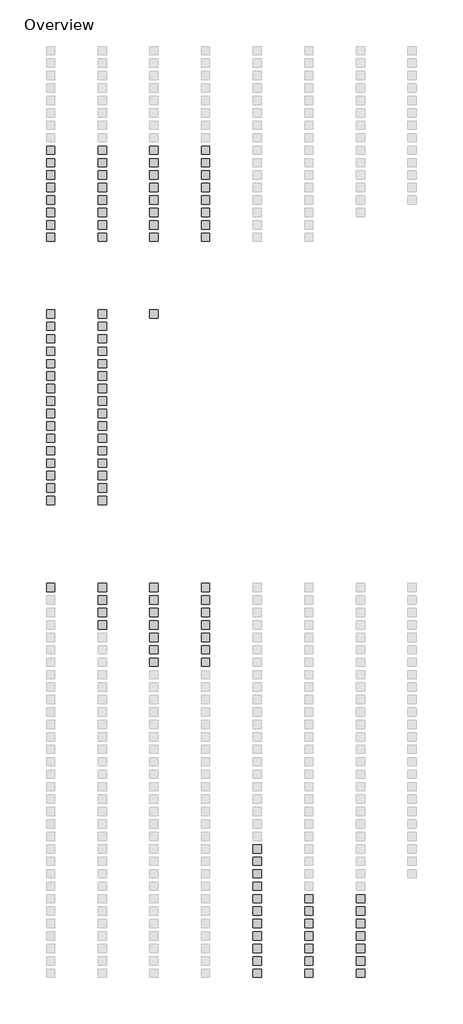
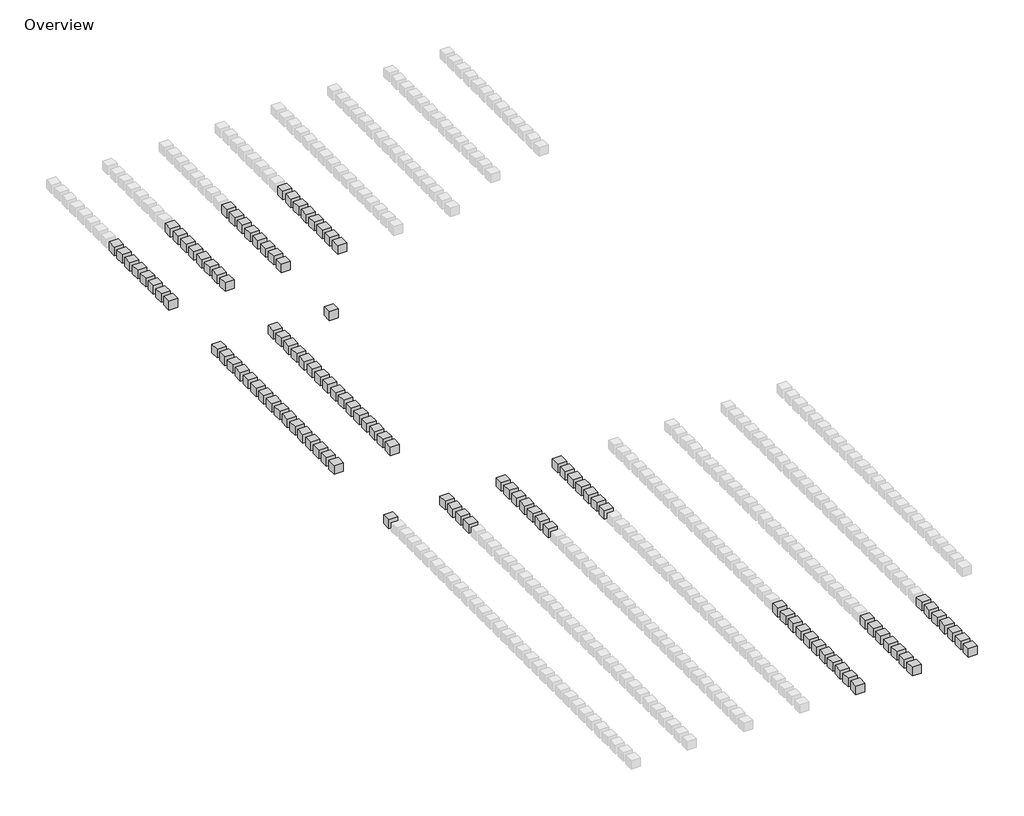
# One storey, part 2 of 5: 109 proxies.
"""IFC4 building model written with IfcOpenShell, lengths in millimetres."""

from ifc_helpers import new_model, si_unit, origin, place, context, project, spatial, transform, mapped, element, save
from components import material_box_material_box_61bd0c43

model = new_model("IFC4")

# Units and contexts
model_context = context("Model", 3, world=origin())
ifc_project = project(units=[si_unit("LENGTHUNIT", "METRE", prefix="MILLI")], contexts=[model_context])

# Site, building, storey
site = spatial("IfcSite", under=ifc_project)
building = spatial("IfcBuilding", under=site)
storey = spatial("IfcBuildingStorey", under=building, Name="Overview", Elevation=0.0)

# Proxies
placement = place(None, origin())
material_box_material_box_shape = material_box_material_box_61bd0c43(model_context)
element("IfcBuildingElementProxy", 1, Name="Material Box : Material Box", ObjectType="Material Box : Material Box", at=placement, inside=storey, context=model_context, shape_type="MappedRepresentation", body=[
    mapped(material_box_material_box_shape, transform((-14601.1030029, -15054.0736223, 0.0), x_axis=(1.0, 0.0, 0.0), y_axis=(0.0, 1.0, 0.0), z_axis=(0.0, 0.0, 1.0))),
])
element("IfcBuildingElementProxy", 2, Name="Material Box : Material Box", ObjectType="Material Box : Material Box", at=placement, inside=storey, context=model_context, shape_type="MappedRepresentation", body=[
    mapped(material_box_material_box_shape, transform((-14601.1030029, -16197.0736223, 0.0), x_axis=(1.0, 0.0, 0.0), y_axis=(0.0, 1.0, 0.0), z_axis=(0.0, 0.0, 1.0))),
])
element("IfcBuildingElementProxy", 3, Name="Material Box : Material Box", ObjectType="Material Box : Material Box", at=placement, inside=storey, context=model_context, shape_type="MappedRepresentation", body=[
    mapped(material_box_material_box_shape, transform((-14601.1030029, -17340.0736223, 0.0), x_axis=(1.0, 0.0, 0.0), y_axis=(0.0, 1.0, 0.0), z_axis=(0.0, 0.0, 1.0))),
])
element("IfcBuildingElementProxy", 4, Name="Material Box : Material Box", ObjectType="Material Box : Material Box", at=placement, inside=storey, context=model_context, shape_type="MappedRepresentation", body=[
    mapped(material_box_material_box_shape, transform((-14601.1030029, -18483.0736223, 0.0), x_axis=(1.0, 0.0, 0.0), y_axis=(0.0, 1.0, 0.0), z_axis=(0.0, 0.0, 1.0))),
])
element("IfcBuildingElementProxy", 5, Name="Material Box : Material Box", ObjectType="Material Box : Material Box", at=placement, inside=storey, context=model_context, shape_type="MappedRepresentation", body=[
    mapped(material_box_material_box_shape, transform((-9851.3030029, -15054.0736223, 0.0), x_axis=(1.0, 0.0, 0.0), y_axis=(0.0, 1.0, 0.0), z_axis=(0.0, 0.0, 1.0))),
])
element("IfcBuildingElementProxy", 6, Name="Material Box : Material Box", ObjectType="Material Box : Material Box", at=placement, inside=storey, context=model_context, shape_type="MappedRepresentation", body=[
    mapped(material_box_material_box_shape, transform((-9851.3030029, -16197.0736223, 0.0), x_axis=(1.0, 0.0, 0.0), y_axis=(0.0, 1.0, 0.0), z_axis=(0.0, 0.0, 1.0))),
])
element("IfcBuildingElementProxy", 7, Name="Material Box : Material Box", ObjectType="Material Box : Material Box", at=placement, inside=storey, context=model_context, shape_type="MappedRepresentation", body=[
    mapped(material_box_material_box_shape, transform((-9851.3030029, -17340.0736223, 0.0), x_axis=(1.0, 0.0, 0.0), y_axis=(0.0, 1.0, 0.0), z_axis=(0.0, 0.0, 1.0))),
])
element("IfcBuildingElementProxy", 8, Name="Material Box : Material Box", ObjectType="Material Box : Material Box", at=placement, inside=storey, context=model_context, shape_type="MappedRepresentation", body=[
    mapped(material_box_material_box_shape, transform((-9851.3030029, -18483.0736223, 0.0), x_axis=(1.0, 0.0, 0.0), y_axis=(0.0, 1.0, 0.0), z_axis=(0.0, 0.0, 1.0))),
])
element("IfcBuildingElementProxy", 9, Name="Material Box : Material Box", ObjectType="Material Box : Material Box", at=placement, inside=storey, context=model_context, shape_type="MappedRepresentation", body=[
    mapped(material_box_material_box_shape, transform((-14601.1030029, -19626.0736223, 0.0), x_axis=(1.0, 0.0, 0.0), y_axis=(0.0, 1.0, 0.0), z_axis=(0.0, 0.0, 1.0))),
])
element("IfcBuildingElementProxy", 10, Name="Material Box : Material Box", ObjectType="Material Box : Material Box", at=placement, inside=storey, context=model_context, shape_type="MappedRepresentation", body=[
    mapped(material_box_material_box_shape, transform((-9851.3030029, -19626.0736223, 0.0), x_axis=(1.0, 0.0, 0.0), y_axis=(0.0, 1.0, 0.0), z_axis=(0.0, 0.0, 1.0))),
])
element("IfcBuildingElementProxy", 11, Name="Material Box : Material Box", ObjectType="Material Box : Material Box", at=placement, inside=storey, context=model_context, shape_type="MappedRepresentation", body=[
    mapped(material_box_material_box_shape, transform((-14601.1030029, -20769.0736223, 0.0), x_axis=(1.0, 0.0, 0.0), y_axis=(0.0, 1.0, 0.0), z_axis=(0.0, 0.0, 1.0))),
])
element("IfcBuildingElementProxy", 12, Name="Material Box : Material Box", ObjectType="Material Box : Material Box", at=placement, inside=storey, context=model_context, shape_type="MappedRepresentation", body=[
    mapped(material_box_material_box_shape, transform((-9851.3030029, -20769.0736223, 0.0), x_axis=(1.0, 0.0, 0.0), y_axis=(0.0, 1.0, 0.0), z_axis=(0.0, 0.0, 1.0))),
])
element("IfcBuildingElementProxy", 13, Name="Material Box : Material Box", ObjectType="Material Box : Material Box", at=placement, inside=storey, context=model_context, shape_type="MappedRepresentation", body=[
    mapped(material_box_material_box_shape, transform((-14601.1030029, -21912.0736223, 0.0), x_axis=(1.0, 0.0, 0.0), y_axis=(0.0, 1.0, 0.0), z_axis=(0.0, 0.0, 1.0))),
])
element("IfcBuildingElementProxy", 14, Name="Material Box : Material Box", ObjectType="Material Box : Material Box", at=placement, inside=storey, context=model_context, shape_type="MappedRepresentation", body=[
    mapped(material_box_material_box_shape, transform((-9851.3030029, -21912.0736223, 0.0), x_axis=(1.0, 0.0, 0.0), y_axis=(0.0, 1.0, 0.0), z_axis=(0.0, 0.0, 1.0))),
])
element("IfcBuildingElementProxy", 15, Name="Material Box : Material Box", ObjectType="Material Box : Material Box", at=placement, inside=storey, context=model_context, shape_type="MappedRepresentation", body=[
    mapped(material_box_material_box_shape, transform((-14601.1030029, -23055.0736223, 0.0), x_axis=(1.0, 0.0, 0.0), y_axis=(0.0, 1.0, 0.0), z_axis=(0.0, 0.0, 1.0))),
])
element("IfcBuildingElementProxy", 16, Name="Material Box : Material Box", ObjectType="Material Box : Material Box", at=placement, inside=storey, context=model_context, shape_type="MappedRepresentation", body=[
    mapped(material_box_material_box_shape, transform((-9851.3030029, -23055.0736223, 0.0), x_axis=(1.0, 0.0, 0.0), y_axis=(0.0, 1.0, 0.0), z_axis=(0.0, 0.0, 1.0))),
])
element("IfcBuildingElementProxy", 17, Name="Material Box : Material Box", ObjectType="Material Box : Material Box", at=placement, inside=storey, context=model_context, shape_type="MappedRepresentation", body=[
    mapped(material_box_material_box_shape, transform((-14601.1030029, -24198.0736223, 0.0), x_axis=(1.0, 0.0, 0.0), y_axis=(0.0, 1.0, 0.0), z_axis=(0.0, 0.0, 1.0))),
])
element("IfcBuildingElementProxy", 18, Name="Material Box : Material Box", ObjectType="Material Box : Material Box", at=placement, inside=storey, context=model_context, shape_type="MappedRepresentation", body=[
    mapped(material_box_material_box_shape, transform((-9851.3030029, -24198.0736223, 0.0), x_axis=(1.0, 0.0, 0.0), y_axis=(0.0, 1.0, 0.0), z_axis=(0.0, 0.0, 1.0))),
])
element("IfcBuildingElementProxy", 19, Name="Material Box : Material Box", ObjectType="Material Box : Material Box", at=placement, inside=storey, context=model_context, shape_type="MappedRepresentation", body=[
    mapped(material_box_material_box_shape, transform((-14601.1030029, -25341.0736223, 0.0), x_axis=(1.0, 0.0, 0.0), y_axis=(0.0, 1.0, 0.0), z_axis=(0.0, 0.0, 1.0))),
])
element("IfcBuildingElementProxy", 20, Name="Material Box : Material Box", ObjectType="Material Box : Material Box", at=placement, inside=storey, context=model_context, shape_type="MappedRepresentation", body=[
    mapped(material_box_material_box_shape, transform((-9851.3030029, -25341.0736223, 0.0), x_axis=(1.0, 0.0, 0.0), y_axis=(0.0, 1.0, 0.0), z_axis=(0.0, 0.0, 1.0))),
])
element("IfcBuildingElementProxy", 21, Name="Material Box : Material Box", ObjectType="Material Box : Material Box", at=placement, inside=storey, context=model_context, shape_type="MappedRepresentation", body=[
    mapped(material_box_material_box_shape, transform((-14601.1030029, -26484.0736223, 0.0), x_axis=(1.0, 0.0, 0.0), y_axis=(0.0, 1.0, 0.0), z_axis=(0.0, 0.0, 1.0))),
])
element("IfcBuildingElementProxy", 22, Name="Material Box : Material Box", ObjectType="Material Box : Material Box", at=placement, inside=storey, context=model_context, shape_type="MappedRepresentation", body=[
    mapped(material_box_material_box_shape, transform((-9851.3030029, -26484.0736223, 0.0), x_axis=(1.0, 0.0, 0.0), y_axis=(0.0, 1.0, 0.0), z_axis=(0.0, 0.0, 1.0))),
])
element("IfcBuildingElementProxy", 23, Name="Material Box : Material Box", ObjectType="Material Box : Material Box", at=placement, inside=storey, context=model_context, shape_type="MappedRepresentation", body=[
    mapped(material_box_material_box_shape, transform((-14601.1030029, -27627.0736223, 0.0), x_axis=(1.0, 0.0, 0.0), y_axis=(0.0, 1.0, 0.0), z_axis=(0.0, 0.0, 1.0))),
])
element("IfcBuildingElementProxy", 24, Name="Material Box : Material Box", ObjectType="Material Box : Material Box", at=placement, inside=storey, context=model_context, shape_type="MappedRepresentation", body=[
    mapped(material_box_material_box_shape, transform((-9851.3030029, -27627.0736223, 0.0), x_axis=(1.0, 0.0, 0.0), y_axis=(0.0, 1.0, 0.0), z_axis=(0.0, 0.0, 1.0))),
])
element("IfcBuildingElementProxy", 25, Name="Material Box : Material Box", ObjectType="Material Box : Material Box", at=placement, inside=storey, context=model_context, shape_type="MappedRepresentation", body=[
    mapped(material_box_material_box_shape, transform((-14601.1030029, -28770.0736223, 0.0), x_axis=(1.0, 0.0, 0.0), y_axis=(0.0, 1.0, 0.0), z_axis=(0.0, 0.0, 1.0))),
])
element("IfcBuildingElementProxy", 26, Name="Material Box : Material Box", ObjectType="Material Box : Material Box", at=placement, inside=storey, context=model_context, shape_type="MappedRepresentation", body=[
    mapped(material_box_material_box_shape, transform((-9851.3030029, -28770.0736223, 0.0), x_axis=(1.0, 0.0, 0.0), y_axis=(0.0, 1.0, 0.0), z_axis=(0.0, 0.0, 1.0))),
])
element("IfcBuildingElementProxy", 27, Name="Material Box : Material Box", ObjectType="Material Box : Material Box", at=placement, inside=storey, context=model_context, shape_type="MappedRepresentation", body=[
    mapped(material_box_material_box_shape, transform((-14601.1030029, -29913.0736223, 0.0), x_axis=(1.0, 0.0, 0.0), y_axis=(0.0, 1.0, 0.0), z_axis=(0.0, 0.0, 1.0))),
])
element("IfcBuildingElementProxy", 28, Name="Material Box : Material Box", ObjectType="Material Box : Material Box", at=placement, inside=storey, context=model_context, shape_type="MappedRepresentation", body=[
    mapped(material_box_material_box_shape, transform((-9851.3030029, -29913.0736223, 0.0), x_axis=(1.0, 0.0, 0.0), y_axis=(0.0, 1.0, 0.0), z_axis=(0.0, 0.0, 1.0))),
])
element("IfcBuildingElementProxy", 29, Name="Material Box : Material Box", ObjectType="Material Box : Material Box", at=placement, inside=storey, context=model_context, shape_type="MappedRepresentation", body=[
    mapped(material_box_material_box_shape, transform((-14601.1030029, -31056.0736223, 0.0), x_axis=(1.0, 0.0, 0.0), y_axis=(0.0, 1.0, 0.0), z_axis=(0.0, 0.0, 1.0))),
])
element("IfcBuildingElementProxy", 30, Name="Material Box : Material Box", ObjectType="Material Box : Material Box", at=placement, inside=storey, context=model_context, shape_type="MappedRepresentation", body=[
    mapped(material_box_material_box_shape, transform((-9851.3030029, -31056.0736223, 0.0), x_axis=(1.0, 0.0, 0.0), y_axis=(0.0, 1.0, 0.0), z_axis=(0.0, 0.0, 1.0))),
])
element("IfcBuildingElementProxy", 31, Name="Material Box : Material Box", ObjectType="Material Box : Material Box", at=placement, inside=storey, context=model_context, shape_type="MappedRepresentation", body=[
    mapped(material_box_material_box_shape, transform((-14601.1030029, -32199.0736223, 0.0), x_axis=(1.0, 0.0, 0.0), y_axis=(0.0, 1.0, 0.0), z_axis=(0.0, 0.0, 1.0))),
])
element("IfcBuildingElementProxy", 32, Name="Material Box : Material Box", ObjectType="Material Box : Material Box", at=placement, inside=storey, context=model_context, shape_type="MappedRepresentation", body=[
    mapped(material_box_material_box_shape, transform((-9851.3030029, -32199.0736223, 0.0), x_axis=(1.0, 0.0, 0.0), y_axis=(0.0, 1.0, 0.0), z_axis=(0.0, 0.0, 1.0))),
])
element("IfcBuildingElementProxy", 33, Name="Material Box : Material Box", ObjectType="Material Box : Material Box", at=placement, inside=storey, context=model_context, shape_type="MappedRepresentation", body=[
    mapped(material_box_material_box_shape, transform((-5101.5030029, -15054.0736223, 0.0), x_axis=(1.0, 0.0, 0.0), y_axis=(0.0, 1.0, 0.0), z_axis=(0.0, 0.0, 1.0))),
])
element("IfcBuildingElementProxy", 34, Name="Material Box : Material Box", ObjectType="Material Box : Material Box", at=placement, inside=storey, context=model_context, shape_type="MappedRepresentation", body=[
    mapped(material_box_material_box_shape, transform((-14601.1030029, -40200.0736223, 0.0), x_axis=(1.0, 0.0, 0.0), y_axis=(0.0, 1.0, 0.0), z_axis=(0.0, 0.0, 1.0))),
])
element("IfcBuildingElementProxy", 35, Name="Material Box : Material Box", ObjectType="Material Box : Material Box", at=placement, inside=storey, context=model_context, shape_type="MappedRepresentation", body=[
    mapped(material_box_material_box_shape, transform((-9851.3030029, -40200.0736223, 0.0), x_axis=(1.0, 0.0, 0.0), y_axis=(0.0, 1.0, 0.0), z_axis=(0.0, 0.0, 1.0))),
])
element("IfcBuildingElementProxy", 36, Name="Material Box : Material Box", ObjectType="Material Box : Material Box", at=placement, inside=storey, context=model_context, shape_type="MappedRepresentation", body=[
    mapped(material_box_material_box_shape, transform((-9851.3030029, -41343.0736223, 0.0), x_axis=(1.0, 0.0, 0.0), y_axis=(0.0, 1.0, 0.0), z_axis=(0.0, 0.0, 1.0))),
])
element("IfcBuildingElementProxy", 37, Name="Material Box : Material Box", ObjectType="Material Box : Material Box", at=placement, inside=storey, context=model_context, shape_type="MappedRepresentation", body=[
    mapped(material_box_material_box_shape, transform((-9851.3030029, -42486.0736223, 0.0), x_axis=(1.0, 0.0, 0.0), y_axis=(0.0, 1.0, 0.0), z_axis=(0.0, 0.0, 1.0))),
])
element("IfcBuildingElementProxy", 38, Name="Material Box : Material Box", ObjectType="Material Box : Material Box", at=placement, inside=storey, context=model_context, shape_type="MappedRepresentation", body=[
    mapped(material_box_material_box_shape, transform((-9851.3030029, -43629.0736223, 0.0), x_axis=(1.0, 0.0, 0.0), y_axis=(0.0, 1.0, 0.0), z_axis=(0.0, 0.0, 1.0))),
])
element("IfcBuildingElementProxy", 39, Name="Material Box : Material Box", ObjectType="Material Box : Material Box", at=placement, inside=storey, context=model_context, shape_type="MappedRepresentation", body=[
    mapped(material_box_material_box_shape, transform((-5101.5030029, -40200.0736223, 0.0), x_axis=(1.0, 0.0, 0.0), y_axis=(0.0, 1.0, 0.0), z_axis=(0.0, 0.0, 1.0))),
])
element("IfcBuildingElementProxy", 40, Name="Material Box : Material Box", ObjectType="Material Box : Material Box", at=placement, inside=storey, context=model_context, shape_type="MappedRepresentation", body=[
    mapped(material_box_material_box_shape, transform((-351.7030029, -40200.0736223, 0.0), x_axis=(1.0, 0.0, 0.0), y_axis=(0.0, 1.0, 0.0), z_axis=(0.0, 0.0, 1.0))),
])
element("IfcBuildingElementProxy", 41, Name="Material Box : Material Box", ObjectType="Material Box : Material Box", at=placement, inside=storey, context=model_context, shape_type="MappedRepresentation", body=[
    mapped(material_box_material_box_shape, transform((-5101.5030029, -41343.0736223, 0.0), x_axis=(1.0, 0.0, 0.0), y_axis=(0.0, 1.0, 0.0), z_axis=(0.0, 0.0, 1.0))),
])
element("IfcBuildingElementProxy", 42, Name="Material Box : Material Box", ObjectType="Material Box : Material Box", at=placement, inside=storey, context=model_context, shape_type="MappedRepresentation", body=[
    mapped(material_box_material_box_shape, transform((-351.7030029, -41343.0736223, 0.0), x_axis=(1.0, 0.0, 0.0), y_axis=(0.0, 1.0, 0.0), z_axis=(0.0, 0.0, 1.0))),
])
element("IfcBuildingElementProxy", 43, Name="Material Box : Material Box", ObjectType="Material Box : Material Box", at=placement, inside=storey, context=model_context, shape_type="MappedRepresentation", body=[
    mapped(material_box_material_box_shape, transform((-5101.5030029, -42486.0736223, 0.0), x_axis=(1.0, 0.0, 0.0), y_axis=(0.0, 1.0, 0.0), z_axis=(0.0, 0.0, 1.0))),
])
element("IfcBuildingElementProxy", 44, Name="Material Box : Material Box", ObjectType="Material Box : Material Box", at=placement, inside=storey, context=model_context, shape_type="MappedRepresentation", body=[
    mapped(material_box_material_box_shape, transform((-351.7030029, -42486.0736223, 0.0), x_axis=(1.0, 0.0, 0.0), y_axis=(0.0, 1.0, 0.0), z_axis=(0.0, 0.0, 1.0))),
])
element("IfcBuildingElementProxy", 45, Name="Material Box : Material Box", ObjectType="Material Box : Material Box", at=placement, inside=storey, context=model_context, shape_type="MappedRepresentation", body=[
    mapped(material_box_material_box_shape, transform((-5101.5030029, -43629.0736223, 0.0), x_axis=(1.0, 0.0, 0.0), y_axis=(0.0, 1.0, 0.0), z_axis=(0.0, 0.0, 1.0))),
])
element("IfcBuildingElementProxy", 46, Name="Material Box : Material Box", ObjectType="Material Box : Material Box", at=placement, inside=storey, context=model_context, shape_type="MappedRepresentation", body=[
    mapped(material_box_material_box_shape, transform((-351.7030029, -43629.0736223, 0.0), x_axis=(1.0, 0.0, 0.0), y_axis=(0.0, 1.0, 0.0), z_axis=(0.0, 0.0, 1.0))),
])
element("IfcBuildingElementProxy", 47, Name="Material Box : Material Box", ObjectType="Material Box : Material Box", at=placement, inside=storey, context=model_context, shape_type="MappedRepresentation", body=[
    mapped(material_box_material_box_shape, transform((-5101.5030029, -44772.0736223, 0.0), x_axis=(1.0, 0.0, 0.0), y_axis=(0.0, 1.0, 0.0), z_axis=(0.0, 0.0, 1.0))),
])
element("IfcBuildingElementProxy", 48, Name="Material Box : Material Box", ObjectType="Material Box : Material Box", at=placement, inside=storey, context=model_context, shape_type="MappedRepresentation", body=[
    mapped(material_box_material_box_shape, transform((-351.7030029, -44772.0736223, 0.0), x_axis=(1.0, 0.0, 0.0), y_axis=(0.0, 1.0, 0.0), z_axis=(0.0, 0.0, 1.0))),
])
element("IfcBuildingElementProxy", 49, Name="Material Box : Material Box", ObjectType="Material Box : Material Box", at=placement, inside=storey, context=model_context, shape_type="MappedRepresentation", body=[
    mapped(material_box_material_box_shape, transform((-5101.5030029, -45915.0736223, 0.0), x_axis=(1.0, 0.0, 0.0), y_axis=(0.0, 1.0, 0.0), z_axis=(0.0, 0.0, 1.0))),
])
element("IfcBuildingElementProxy", 50, Name="Material Box : Material Box", ObjectType="Material Box : Material Box", at=placement, inside=storey, context=model_context, shape_type="MappedRepresentation", body=[
    mapped(material_box_material_box_shape, transform((-351.7030029, -45915.0736223, 0.0), x_axis=(1.0, 0.0, 0.0), y_axis=(0.0, 1.0, 0.0), z_axis=(0.0, 0.0, 1.0))),
])
element("IfcBuildingElementProxy", 51, Name="Material Box : Material Box", ObjectType="Material Box : Material Box", at=placement, inside=storey, context=model_context, shape_type="MappedRepresentation", body=[
    mapped(material_box_material_box_shape, transform((-5101.5030029, -47058.0736223, 0.0), x_axis=(1.0, 0.0, 0.0), y_axis=(0.0, 1.0, 0.0), z_axis=(0.0, 0.0, 1.0))),
])
element("IfcBuildingElementProxy", 52, Name="Material Box : Material Box", ObjectType="Material Box : Material Box", at=placement, inside=storey, context=model_context, shape_type="MappedRepresentation", body=[
    mapped(material_box_material_box_shape, transform((-351.7030029, -47058.0736223, 0.0), x_axis=(1.0, 0.0, 0.0), y_axis=(0.0, 1.0, 0.0), z_axis=(0.0, 0.0, 1.0))),
])
element("IfcBuildingElementProxy", 53, Name="Material Box : Material Box", ObjectType="Material Box : Material Box", at=placement, inside=storey, context=model_context, shape_type="MappedRepresentation", body=[
    mapped(material_box_material_box_shape, transform((4398.0969971, -64203.0736223, 0.0), x_axis=(1.0, 0.0, 0.0), y_axis=(0.0, 1.0, 0.0), z_axis=(0.0, 0.0, 1.0))),
])
element("IfcBuildingElementProxy", 54, Name="Material Box : Material Box", ObjectType="Material Box : Material Box", at=placement, inside=storey, context=model_context, shape_type="MappedRepresentation", body=[
    mapped(material_box_material_box_shape, transform((4398.0969971, -65346.0736223, 0.0), x_axis=(1.0, 0.0, 0.0), y_axis=(0.0, 1.0, 0.0), z_axis=(0.0, 0.0, 1.0))),
])
element("IfcBuildingElementProxy", 55, Name="Material Box : Material Box", ObjectType="Material Box : Material Box", at=placement, inside=storey, context=model_context, shape_type="MappedRepresentation", body=[
    mapped(material_box_material_box_shape, transform((4398.0969971, -66489.0736223, 0.0), x_axis=(1.0, 0.0, 0.0), y_axis=(0.0, 1.0, 0.0), z_axis=(0.0, 0.0, 1.0))),
])
element("IfcBuildingElementProxy", 56, Name="Material Box : Material Box", ObjectType="Material Box : Material Box", at=placement, inside=storey, context=model_context, shape_type="MappedRepresentation", body=[
    mapped(material_box_material_box_shape, transform((4398.0969971, -67632.0736223, 0.0), x_axis=(1.0, 0.0, 0.0), y_axis=(0.0, 1.0, 0.0), z_axis=(0.0, 0.0, 1.0))),
])
element("IfcBuildingElementProxy", 57, Name="Material Box : Material Box", ObjectType="Material Box : Material Box", at=placement, inside=storey, context=model_context, shape_type="MappedRepresentation", body=[
    mapped(material_box_material_box_shape, transform((4398.0969971, -68775.0736223, 0.0), x_axis=(1.0, 0.0, 0.0), y_axis=(0.0, 1.0, 0.0), z_axis=(0.0, 0.0, 1.0))),
])
element("IfcBuildingElementProxy", 58, Name="Material Box : Material Box", ObjectType="Material Box : Material Box", at=placement, inside=storey, context=model_context, shape_type="MappedRepresentation", body=[
    mapped(material_box_material_box_shape, transform((4398.0969971, -69918.0736223, 0.0), x_axis=(1.0, 0.0, 0.0), y_axis=(0.0, 1.0, 0.0), z_axis=(0.0, 0.0, 1.0))),
])
element("IfcBuildingElementProxy", 59, Name="Material Box : Material Box", ObjectType="Material Box : Material Box", at=placement, inside=storey, context=model_context, shape_type="MappedRepresentation", body=[
    mapped(material_box_material_box_shape, transform((4398.0969971, -71061.0736223, 0.0), x_axis=(1.0, 0.0, 0.0), y_axis=(0.0, 1.0, 0.0), z_axis=(0.0, 0.0, 1.0))),
])
element("IfcBuildingElementProxy", 60, Name="Material Box : Material Box", ObjectType="Material Box : Material Box", at=placement, inside=storey, context=model_context, shape_type="MappedRepresentation", body=[
    mapped(material_box_material_box_shape, transform((4398.0969971, -72204.0736223, 0.0), x_axis=(1.0, 0.0, 0.0), y_axis=(0.0, 1.0, 0.0), z_axis=(0.0, 0.0, 1.0))),
])
element("IfcBuildingElementProxy", 61, Name="Material Box : Material Box", ObjectType="Material Box : Material Box", at=placement, inside=storey, context=model_context, shape_type="MappedRepresentation", body=[
    mapped(material_box_material_box_shape, transform((4398.0969971, -73347.0736223, 0.0), x_axis=(1.0, 0.0, 0.0), y_axis=(0.0, 1.0, 0.0), z_axis=(0.0, 0.0, 1.0))),
])
element("IfcBuildingElementProxy", 62, Name="Material Box : Material Box", ObjectType="Material Box : Material Box", at=placement, inside=storey, context=model_context, shape_type="MappedRepresentation", body=[
    mapped(material_box_material_box_shape, transform((4398.0969971, -74490.0736223, 0.0), x_axis=(1.0, 0.0, 0.0), y_axis=(0.0, 1.0, 0.0), z_axis=(0.0, 0.0, 1.0))),
])
element("IfcBuildingElementProxy", 63, Name="Material Box : Material Box", ObjectType="Material Box : Material Box", at=placement, inside=storey, context=model_context, shape_type="MappedRepresentation", body=[
    mapped(material_box_material_box_shape, transform((4398.0969971, -75633.0736223, 0.0), x_axis=(1.0, 0.0, 0.0), y_axis=(0.0, 1.0, 0.0), z_axis=(0.0, 0.0, 1.0))),
])
element("IfcBuildingElementProxy", 64, Name="Material Box : Material Box", ObjectType="Material Box : Material Box", at=placement, inside=storey, context=model_context, shape_type="MappedRepresentation", body=[
    mapped(material_box_material_box_shape, transform((9147.8969971, -68775.0736223, 0.0), x_axis=(1.0, 0.0, 0.0), y_axis=(0.0, 1.0, 0.0), z_axis=(0.0, 0.0, 1.0))),
])
element("IfcBuildingElementProxy", 65, Name="Material Box : Material Box", ObjectType="Material Box : Material Box", at=placement, inside=storey, context=model_context, shape_type="MappedRepresentation", body=[
    mapped(material_box_material_box_shape, transform((13897.6969971, -68775.0736223, 0.0), x_axis=(1.0, 0.0, 0.0), y_axis=(0.0, 1.0, 0.0), z_axis=(0.0, 0.0, 1.0))),
])
element("IfcBuildingElementProxy", 66, Name="Material Box : Material Box", ObjectType="Material Box : Material Box", at=placement, inside=storey, context=model_context, shape_type="MappedRepresentation", body=[
    mapped(material_box_material_box_shape, transform((9147.8969971, -69918.0736223, 0.0), x_axis=(1.0, 0.0, 0.0), y_axis=(0.0, 1.0, 0.0), z_axis=(0.0, 0.0, 1.0))),
])
element("IfcBuildingElementProxy", 67, Name="Material Box : Material Box", ObjectType="Material Box : Material Box", at=placement, inside=storey, context=model_context, shape_type="MappedRepresentation", body=[
    mapped(material_box_material_box_shape, transform((13897.6969971, -69918.0736223, 0.0), x_axis=(1.0, 0.0, 0.0), y_axis=(0.0, 1.0, 0.0), z_axis=(0.0, 0.0, 1.0))),
])
element("IfcBuildingElementProxy", 68, Name="Material Box : Material Box", ObjectType="Material Box : Material Box", at=placement, inside=storey, context=model_context, shape_type="MappedRepresentation", body=[
    mapped(material_box_material_box_shape, transform((9147.8969971, -71061.0736223, 0.0), x_axis=(1.0, 0.0, 0.0), y_axis=(0.0, 1.0, 0.0), z_axis=(0.0, 0.0, 1.0))),
])
element("IfcBuildingElementProxy", 69, Name="Material Box : Material Box", ObjectType="Material Box : Material Box", at=placement, inside=storey, context=model_context, shape_type="MappedRepresentation", body=[
    mapped(material_box_material_box_shape, transform((13897.6969971, -71061.0736223, 0.0), x_axis=(1.0, 0.0, 0.0), y_axis=(0.0, 1.0, 0.0), z_axis=(0.0, 0.0, 1.0))),
])
element("IfcBuildingElementProxy", 70, Name="Material Box : Material Box", ObjectType="Material Box : Material Box", at=placement, inside=storey, context=model_context, shape_type="MappedRepresentation", body=[
    mapped(material_box_material_box_shape, transform((9147.8969971, -72204.0736223, 0.0), x_axis=(1.0, 0.0, 0.0), y_axis=(0.0, 1.0, 0.0), z_axis=(0.0, 0.0, 1.0))),
])
element("IfcBuildingElementProxy", 71, Name="Material Box : Material Box", ObjectType="Material Box : Material Box", at=placement, inside=storey, context=model_context, shape_type="MappedRepresentation", body=[
    mapped(material_box_material_box_shape, transform((13897.6969971, -72204.0736223, 0.0), x_axis=(1.0, 0.0, 0.0), y_axis=(0.0, 1.0, 0.0), z_axis=(0.0, 0.0, 1.0))),
])
element("IfcBuildingElementProxy", 72, Name="Material Box : Material Box", ObjectType="Material Box : Material Box", at=placement, inside=storey, context=model_context, shape_type="MappedRepresentation", body=[
    mapped(material_box_material_box_shape, transform((9147.8969971, -73347.0736223, 0.0), x_axis=(1.0, 0.0, 0.0), y_axis=(0.0, 1.0, 0.0), z_axis=(0.0, 0.0, 1.0))),
])
element("IfcBuildingElementProxy", 73, Name="Material Box : Material Box", ObjectType="Material Box : Material Box", at=placement, inside=storey, context=model_context, shape_type="MappedRepresentation", body=[
    mapped(material_box_material_box_shape, transform((13897.6969971, -73347.0736223, 0.0), x_axis=(1.0, 0.0, 0.0), y_axis=(0.0, 1.0, 0.0), z_axis=(0.0, 0.0, 1.0))),
])
element("IfcBuildingElementProxy", 74, Name="Material Box : Material Box", ObjectType="Material Box : Material Box", at=placement, inside=storey, context=model_context, shape_type="MappedRepresentation", body=[
    mapped(material_box_material_box_shape, transform((9147.8969971, -74490.0736223, 0.0), x_axis=(1.0, 0.0, 0.0), y_axis=(0.0, 1.0, 0.0), z_axis=(0.0, 0.0, 1.0))),
])
element("IfcBuildingElementProxy", 75, Name="Material Box : Material Box", ObjectType="Material Box : Material Box", at=placement, inside=storey, context=model_context, shape_type="MappedRepresentation", body=[
    mapped(material_box_material_box_shape, transform((13897.6969971, -74490.0736223, 0.0), x_axis=(1.0, 0.0, 0.0), y_axis=(0.0, 1.0, 0.0), z_axis=(0.0, 0.0, 1.0))),
])
element("IfcBuildingElementProxy", 76, Name="Material Box : Material Box", ObjectType="Material Box : Material Box", at=placement, inside=storey, context=model_context, shape_type="MappedRepresentation", body=[
    mapped(material_box_material_box_shape, transform((9147.8969971, -75633.0736223, 0.0), x_axis=(1.0, 0.0, 0.0), y_axis=(0.0, 1.0, 0.0), z_axis=(0.0, 0.0, 1.0))),
])
element("IfcBuildingElementProxy", 77, Name="Material Box : Material Box", ObjectType="Material Box : Material Box", at=placement, inside=storey, context=model_context, shape_type="MappedRepresentation", body=[
    mapped(material_box_material_box_shape, transform((13897.6969971, -75633.0736223, 0.0), x_axis=(1.0, 0.0, 0.0), y_axis=(0.0, 1.0, 0.0), z_axis=(0.0, 0.0, 1.0))),
])
element("IfcBuildingElementProxy", 78, Name="Material Box : Material Box", ObjectType="Material Box : Material Box", at=placement, inside=storey, context=model_context, shape_type="MappedRepresentation", body=[
    mapped(material_box_material_box_shape, transform((-14601.1030029, -19.7951878, 0.0), x_axis=(1.0, 0.0, 0.0), y_axis=(0.0, 1.0, 0.0), z_axis=(0.0, 0.0, 1.0))),
])
element("IfcBuildingElementProxy", 79, Name="Material Box : Material Box", ObjectType="Material Box : Material Box", at=placement, inside=storey, context=model_context, shape_type="MappedRepresentation", body=[
    mapped(material_box_material_box_shape, transform((-14601.1030029, -1162.7951878, 0.0), x_axis=(1.0, 0.0, 0.0), y_axis=(0.0, 1.0, 0.0), z_axis=(0.0, 0.0, 1.0))),
])
element("IfcBuildingElementProxy", 80, Name="Material Box : Material Box", ObjectType="Material Box : Material Box", at=placement, inside=storey, context=model_context, shape_type="MappedRepresentation", body=[
    mapped(material_box_material_box_shape, transform((-14601.1030029, -2305.7951878, 0.0), x_axis=(1.0, 0.0, 0.0), y_axis=(0.0, 1.0, 0.0), z_axis=(0.0, 0.0, 1.0))),
])
element("IfcBuildingElementProxy", 81, Name="Material Box : Material Box", ObjectType="Material Box : Material Box", at=placement, inside=storey, context=model_context, shape_type="MappedRepresentation", body=[
    mapped(material_box_material_box_shape, transform((-14601.1030029, -3448.7951878, 0.0), x_axis=(1.0, 0.0, 0.0), y_axis=(0.0, 1.0, 0.0), z_axis=(0.0, 0.0, 1.0))),
])
element("IfcBuildingElementProxy", 82, Name="Material Box : Material Box", ObjectType="Material Box : Material Box", at=placement, inside=storey, context=model_context, shape_type="MappedRepresentation", body=[
    mapped(material_box_material_box_shape, transform((-14601.1030029, -4591.7951878, 0.0), x_axis=(1.0, 0.0, 0.0), y_axis=(0.0, 1.0, 0.0), z_axis=(0.0, 0.0, 1.0))),
])
element("IfcBuildingElementProxy", 83, Name="Material Box : Material Box", ObjectType="Material Box : Material Box", at=placement, inside=storey, context=model_context, shape_type="MappedRepresentation", body=[
    mapped(material_box_material_box_shape, transform((-14601.1030029, -5734.7951878, 0.0), x_axis=(1.0, 0.0, 0.0), y_axis=(0.0, 1.0, 0.0), z_axis=(0.0, 0.0, 1.0))),
])
element("IfcBuildingElementProxy", 84, Name="Material Box : Material Box", ObjectType="Material Box : Material Box", at=placement, inside=storey, context=model_context, shape_type="MappedRepresentation", body=[
    mapped(material_box_material_box_shape, transform((-14601.1030029, -6877.7951878, 0.0), x_axis=(1.0, 0.0, 0.0), y_axis=(0.0, 1.0, 0.0), z_axis=(0.0, 0.0, 1.0))),
])
element("IfcBuildingElementProxy", 85, Name="Material Box : Material Box", ObjectType="Material Box : Material Box", at=placement, inside=storey, context=model_context, shape_type="MappedRepresentation", body=[
    mapped(material_box_material_box_shape, transform((-9851.3030029, -19.7951878, 0.0), x_axis=(1.0, 0.0, 0.0), y_axis=(0.0, 1.0, 0.0), z_axis=(0.0, 0.0, 1.0))),
])
element("IfcBuildingElementProxy", 86, Name="Material Box : Material Box", ObjectType="Material Box : Material Box", at=placement, inside=storey, context=model_context, shape_type="MappedRepresentation", body=[
    mapped(material_box_material_box_shape, transform((-9851.3030029, -1162.7951878, 0.0), x_axis=(1.0, 0.0, 0.0), y_axis=(0.0, 1.0, 0.0), z_axis=(0.0, 0.0, 1.0))),
])
element("IfcBuildingElementProxy", 87, Name="Material Box : Material Box", ObjectType="Material Box : Material Box", at=placement, inside=storey, context=model_context, shape_type="MappedRepresentation", body=[
    mapped(material_box_material_box_shape, transform((-14601.1030029, -8020.7951878, 0.0), x_axis=(1.0, 0.0, 0.0), y_axis=(0.0, 1.0, 0.0), z_axis=(0.0, 0.0, 1.0))),
])
element("IfcBuildingElementProxy", 88, Name="Material Box : Material Box", ObjectType="Material Box : Material Box", at=placement, inside=storey, context=model_context, shape_type="MappedRepresentation", body=[
    mapped(material_box_material_box_shape, transform((-9851.3030029, -3448.7951878, 0.0), x_axis=(1.0, 0.0, 0.0), y_axis=(0.0, 1.0, 0.0), z_axis=(0.0, 0.0, 1.0))),
])
element("IfcBuildingElementProxy", 89, Name="Material Box : Material Box", ObjectType="Material Box : Material Box", at=placement, inside=storey, context=model_context, shape_type="MappedRepresentation", body=[
    mapped(material_box_material_box_shape, transform((-9851.3030029, -4591.7951878, 0.0), x_axis=(1.0, 0.0, 0.0), y_axis=(0.0, 1.0, 0.0), z_axis=(0.0, 0.0, 1.0))),
])
element("IfcBuildingElementProxy", 90, Name="Material Box : Material Box", ObjectType="Material Box : Material Box", at=placement, inside=storey, context=model_context, shape_type="MappedRepresentation", body=[
    mapped(material_box_material_box_shape, transform((-9851.3030029, -5734.7951878, 0.0), x_axis=(1.0, 0.0, 0.0), y_axis=(0.0, 1.0, 0.0), z_axis=(0.0, 0.0, 1.0))),
])
element("IfcBuildingElementProxy", 91, Name="Material Box : Material Box", ObjectType="Material Box : Material Box", at=placement, inside=storey, context=model_context, shape_type="MappedRepresentation", body=[
    mapped(material_box_material_box_shape, transform((-9851.3030029, -6877.7951878, 0.0), x_axis=(1.0, 0.0, 0.0), y_axis=(0.0, 1.0, 0.0), z_axis=(0.0, 0.0, 1.0))),
])
element("IfcBuildingElementProxy", 92, Name="Material Box : Material Box", ObjectType="Material Box : Material Box", at=placement, inside=storey, context=model_context, shape_type="MappedRepresentation", body=[
    mapped(material_box_material_box_shape, transform((-9851.3030029, -2305.7951878, 0.0), x_axis=(1.0, 0.0, 0.0), y_axis=(0.0, 1.0, 0.0), z_axis=(0.0, 0.0, 1.0))),
])
element("IfcBuildingElementProxy", 93, Name="Material Box : Material Box", ObjectType="Material Box : Material Box", at=placement, inside=storey, context=model_context, shape_type="MappedRepresentation", body=[
    mapped(material_box_material_box_shape, transform((-9851.3030029, -8020.7951878, 0.0), x_axis=(1.0, 0.0, 0.0), y_axis=(0.0, 1.0, 0.0), z_axis=(0.0, 0.0, 1.0))),
])
element("IfcBuildingElementProxy", 94, Name="Material Box : Material Box", ObjectType="Material Box : Material Box", at=placement, inside=storey, context=model_context, shape_type="MappedRepresentation", body=[
    mapped(material_box_material_box_shape, transform((-5101.5030029, -19.7951878, 0.0), x_axis=(1.0, 0.0, 0.0), y_axis=(0.0, 1.0, 0.0), z_axis=(0.0, 0.0, 1.0))),
])
element("IfcBuildingElementProxy", 95, Name="Material Box : Material Box", ObjectType="Material Box : Material Box", at=placement, inside=storey, context=model_context, shape_type="MappedRepresentation", body=[
    mapped(material_box_material_box_shape, transform((-5101.5030029, -1162.7951878, 0.0), x_axis=(1.0, 0.0, 0.0), y_axis=(0.0, 1.0, 0.0), z_axis=(0.0, 0.0, 1.0))),
])
element("IfcBuildingElementProxy", 96, Name="Material Box : Material Box", ObjectType="Material Box : Material Box", at=placement, inside=storey, context=model_context, shape_type="MappedRepresentation", body=[
    mapped(material_box_material_box_shape, transform((-5101.5030029, -2305.7951878, 0.0), x_axis=(1.0, 0.0, 0.0), y_axis=(0.0, 1.0, 0.0), z_axis=(0.0, 0.0, 1.0))),
])
element("IfcBuildingElementProxy", 97, Name="Material Box : Material Box", ObjectType="Material Box : Material Box", at=placement, inside=storey, context=model_context, shape_type="MappedRepresentation", body=[
    mapped(material_box_material_box_shape, transform((-5101.5030029, -3448.7951878, 0.0), x_axis=(1.0, 0.0, 0.0), y_axis=(0.0, 1.0, 0.0), z_axis=(0.0, 0.0, 1.0))),
])
element("IfcBuildingElementProxy", 98, Name="Material Box : Material Box", ObjectType="Material Box : Material Box", at=placement, inside=storey, context=model_context, shape_type="MappedRepresentation", body=[
    mapped(material_box_material_box_shape, transform((-5101.5030029, -4591.7951878, 0.0), x_axis=(1.0, 0.0, 0.0), y_axis=(0.0, 1.0, 0.0), z_axis=(0.0, 0.0, 1.0))),
])
element("IfcBuildingElementProxy", 99, Name="Material Box : Material Box", ObjectType="Material Box : Material Box", at=placement, inside=storey, context=model_context, shape_type="MappedRepresentation", body=[
    mapped(material_box_material_box_shape, transform((-351.7030029, -19.7951878, 0.0), x_axis=(1.0, 0.0, 0.0), y_axis=(0.0, 1.0, 0.0), z_axis=(0.0, 0.0, 1.0))),
])
element("IfcBuildingElementProxy", 100, Name="Material Box : Material Box", ObjectType="Material Box : Material Box", at=placement, inside=storey, context=model_context, shape_type="MappedRepresentation", body=[
    mapped(material_box_material_box_shape, transform((-351.7030029, -1162.7951878, 0.0), x_axis=(1.0, 0.0, 0.0), y_axis=(0.0, 1.0, 0.0), z_axis=(0.0, 0.0, 1.0))),
])
element("IfcBuildingElementProxy", 101, Name="Material Box : Material Box", ObjectType="Material Box : Material Box", at=placement, inside=storey, context=model_context, shape_type="MappedRepresentation", body=[
    mapped(material_box_material_box_shape, transform((-5101.5030029, -5734.7951878, 0.0), x_axis=(1.0, 0.0, 0.0), y_axis=(0.0, 1.0, 0.0), z_axis=(0.0, 0.0, 1.0))),
])
element("IfcBuildingElementProxy", 102, Name="Material Box : Material Box", ObjectType="Material Box : Material Box", at=placement, inside=storey, context=model_context, shape_type="MappedRepresentation", body=[
    mapped(material_box_material_box_shape, transform((-5101.5030029, -6877.7951878, 0.0), x_axis=(1.0, 0.0, 0.0), y_axis=(0.0, 1.0, 0.0), z_axis=(0.0, 0.0, 1.0))),
])
element("IfcBuildingElementProxy", 103, Name="Material Box : Material Box", ObjectType="Material Box : Material Box", at=placement, inside=storey, context=model_context, shape_type="MappedRepresentation", body=[
    mapped(material_box_material_box_shape, transform((-5101.5030029, -8020.7951878, 0.0), x_axis=(1.0, 0.0, 0.0), y_axis=(0.0, 1.0, 0.0), z_axis=(0.0, 0.0, 1.0))),
])
element("IfcBuildingElementProxy", 104, Name="Material Box : Material Box", ObjectType="Material Box : Material Box", at=placement, inside=storey, context=model_context, shape_type="MappedRepresentation", body=[
    mapped(material_box_material_box_shape, transform((-351.7030029, -2305.7951878, 0.0), x_axis=(1.0, 0.0, 0.0), y_axis=(0.0, 1.0, 0.0), z_axis=(0.0, 0.0, 1.0))),
])
element("IfcBuildingElementProxy", 105, Name="Material Box : Material Box", ObjectType="Material Box : Material Box", at=placement, inside=storey, context=model_context, shape_type="MappedRepresentation", body=[
    mapped(material_box_material_box_shape, transform((-351.7030029, -3448.7951878, 0.0), x_axis=(1.0, 0.0, 0.0), y_axis=(0.0, 1.0, 0.0), z_axis=(0.0, 0.0, 1.0))),
])
element("IfcBuildingElementProxy", 106, Name="Material Box : Material Box", ObjectType="Material Box : Material Box", at=placement, inside=storey, context=model_context, shape_type="MappedRepresentation", body=[
    mapped(material_box_material_box_shape, transform((-351.7030029, -4591.7951878, 0.0), x_axis=(1.0, 0.0, 0.0), y_axis=(0.0, 1.0, 0.0), z_axis=(0.0, 0.0, 1.0))),
])
element("IfcBuildingElementProxy", 107, Name="Material Box : Material Box", ObjectType="Material Box : Material Box", at=placement, inside=storey, context=model_context, shape_type="MappedRepresentation", body=[
    mapped(material_box_material_box_shape, transform((-351.7030029, -5734.7951878, 0.0), x_axis=(1.0, 0.0, 0.0), y_axis=(0.0, 1.0, 0.0), z_axis=(0.0, 0.0, 1.0))),
])
element("IfcBuildingElementProxy", 108, Name="Material Box : Material Box", ObjectType="Material Box : Material Box", at=placement, inside=storey, context=model_context, shape_type="MappedRepresentation", body=[
    mapped(material_box_material_box_shape, transform((-351.7030029, -6877.7951878, 0.0), x_axis=(1.0, 0.0, 0.0), y_axis=(0.0, 1.0, 0.0), z_axis=(0.0, 0.0, 1.0))),
])
element("IfcBuildingElementProxy", 109, Name="Material Box : Material Box", ObjectType="Material Box : Material Box", at=placement, inside=storey, context=model_context, shape_type="MappedRepresentation", body=[
    mapped(material_box_material_box_shape, transform((-351.7030029, -8020.7951878, 0.0), x_axis=(1.0, 0.0, 0.0), y_axis=(0.0, 1.0, 0.0), z_axis=(0.0, 0.0, 1.0))),
])

save(model, "model.ifc")
